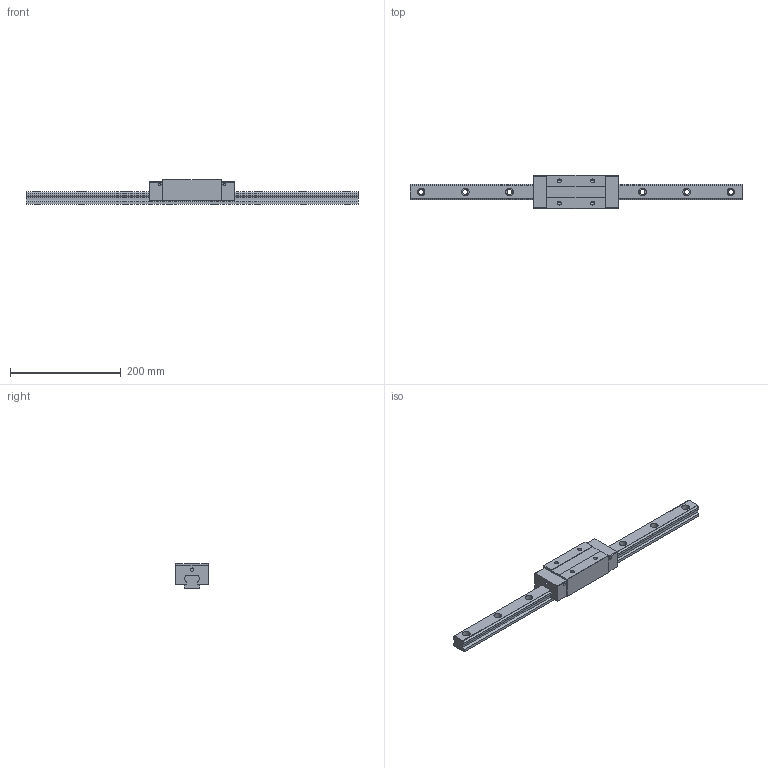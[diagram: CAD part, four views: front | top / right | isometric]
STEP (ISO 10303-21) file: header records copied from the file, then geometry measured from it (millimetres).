
FILE_DESCRIPTION (( 'STEP AP203' ), '1' );
FILE_NAME ('TRH30VE-WZ.STEP', '2024-05-17T01:28:52', ( '' ), ( '' ), 'SwSTEP 2.0', 'SolidWorks 2022', '' );
FILE_SCHEMA (( 'CONFIG_CONTROL_DESIGN' ));
Length unit declared in the file: millimetre
Products named in the file (1): TRH30VE-WZ
Bounding box: 600 x 60 x 45 mm (x, y, z)
Volume: 593277.2 mm3; surface area: 110149.4 mm2
Topology: 2 solids, 2 shells, 186 faces, 488 edges, 316 vertices
Faces by surface type: cylinder 88, plane 82, cone 16
Entity records: 5819 total; most frequent: DIRECTION 1038, CARTESIAN_POINT 983, ORIENTED_EDGE 960, EDGE_CURVE 480, AXIS2_PLACEMENT_3D 371, VERTEX_POINT 316, VECTOR 296, LINE 296
